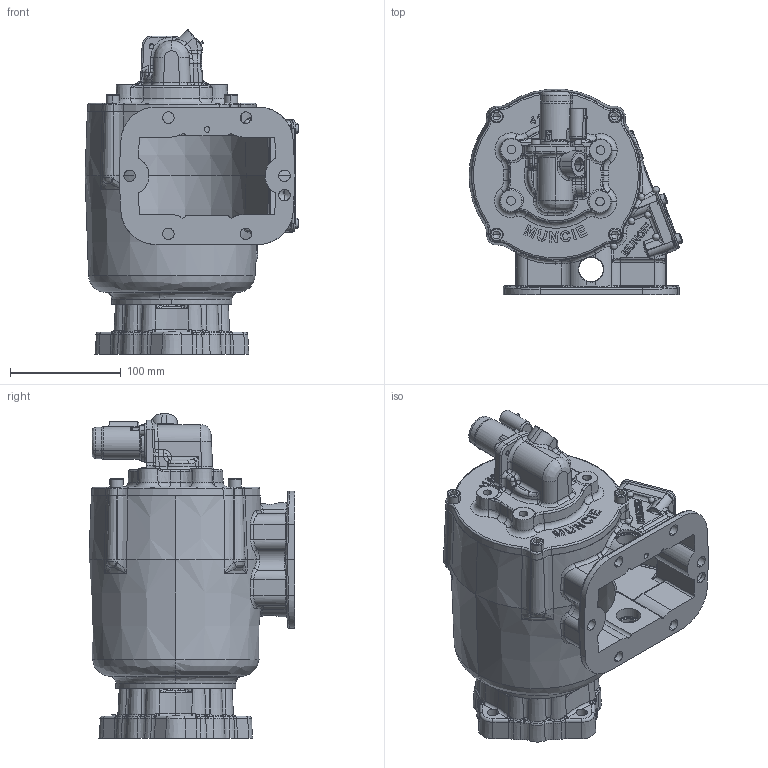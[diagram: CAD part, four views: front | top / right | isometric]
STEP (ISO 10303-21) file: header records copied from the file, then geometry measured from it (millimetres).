
FILE_DESCRIPTION (( 'STEP AP203' ), '1' );
FILE_NAME ('CS6B-XXXXX-S1DX.STEP', '2023-06-02T18:42:58', ( '' ), ( '' ), 'SwSTEP 2.0', 'SolidWorks 2021', '' );
FILE_SCHEMA (( 'CONFIG_CONTROL_DESIGN' ));
Length unit declared in the file: inch
Products named in the file (14): 01T36713; 15T41597; 36MCL100-1; 19T40859; 16T41119; 19T34462-1; 14T39406; 19T35237; 12T36751; 35T40860-1; 11T36124-1; 19T41118; CS6B-XXXXX-S1DX; 12T34003
Assembly tree (23 placements, depth 2):
  CS6B-XXXXX-S1DX
    01T36713
    11T36124-1
    12T34003
    12T36751
    15T41597
    16T41119
    19T34462-1  x4
    19T35237  x4
    19T40859  x2
    35T40860-1
    36MCL100-1
    19T41118  x4
    14T39406
Bounding box: 192.82 x 185.25 x 292.61 mm (x, y, z)
Volume: 1317324.1 mm3; surface area: 420222.8 mm2
Topology: 24 solids, 24 shells, 4285 faces, 11387 edges, 7242 vertices
Faces by surface type: plane 1622, bspline 1538, cylinder 657, cone 317, torus 147, sphere 4
Entity records: 223724 total; most frequent: CARTESIAN_POINT 132071, ORIENTED_EDGE 21526, DIRECTION 14006, EDGE_CURVE 10763, VERTEX_POINT 6928, VECTOR 5146, LINE 5146, AXIS2_PLACEMENT_3D 4430
